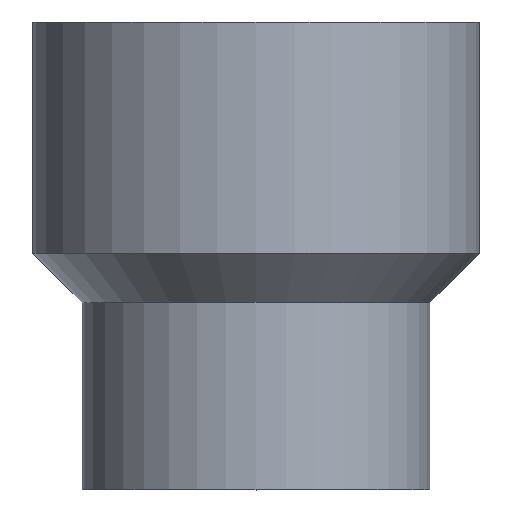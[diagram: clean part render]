
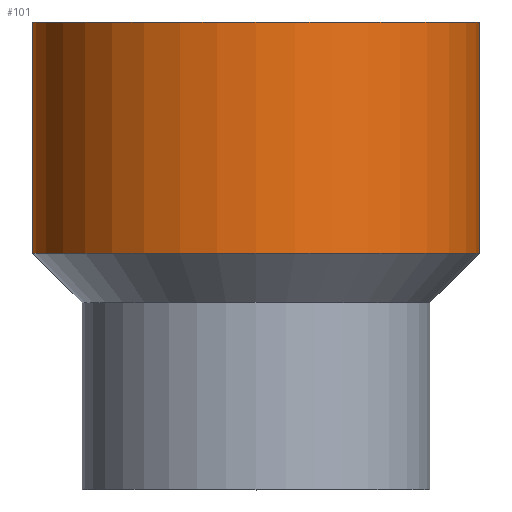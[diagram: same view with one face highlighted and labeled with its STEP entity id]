
A CAD part, top view. The second image highlights one B-rep face of the part: STEP entity #101.
In plain terms, the highlighted cylindrical face has radius 43 mm (diameter 86 mm), a full revolution.
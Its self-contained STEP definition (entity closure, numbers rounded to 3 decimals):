
#25=FACE_BOUND('',#44,.T.);
#33=FACE_OUTER_BOUND('',#43,.T.);
#43=EDGE_LOOP('',(#83));
#44=EDGE_LOOP('',(#84));
#57=CIRCLE('',#113,43.);
#58=CIRCLE('',#115,43.);
#65=VERTEX_POINT('',#172);
#66=VERTEX_POINT('',#175);
#73=EDGE_CURVE('',#65,#65,#57,.T.);
#74=EDGE_CURVE('',#66,#66,#58,.T.);
#83=ORIENTED_EDGE('',*,*,#74,.F.);
#84=ORIENTED_EDGE('',*,*,#73,.T.);
#96=CYLINDRICAL_SURFACE('',#114,43.);
#101=ADVANCED_FACE('',(#33,#25),#96,.T.);
#113=AXIS2_PLACEMENT_3D('',#173,#137,#138);
#114=AXIS2_PLACEMENT_3D('',#174,#139,#140);
#115=AXIS2_PLACEMENT_3D('',#176,#141,#142);
#137=DIRECTION('center_axis',(0.,1.,0.));
#138=DIRECTION('ref_axis',(-1.,0.,0.));
#139=DIRECTION('center_axis',(0.,1.,0.));
#140=DIRECTION('ref_axis',(-1.,0.,0.));
#141=DIRECTION('center_axis',(0.,1.,0.));
#142=DIRECTION('ref_axis',(-1.,0.,0.));
#172=CARTESIAN_POINT('',(-43.,45.5,0.));
#173=CARTESIAN_POINT('Origin',(0.,45.5,0.));
#174=CARTESIAN_POINT('Origin',(0.,67.75,0.));
#175=CARTESIAN_POINT('',(-43.,90.,0.));
#176=CARTESIAN_POINT('Origin',(0.,90.,0.));
